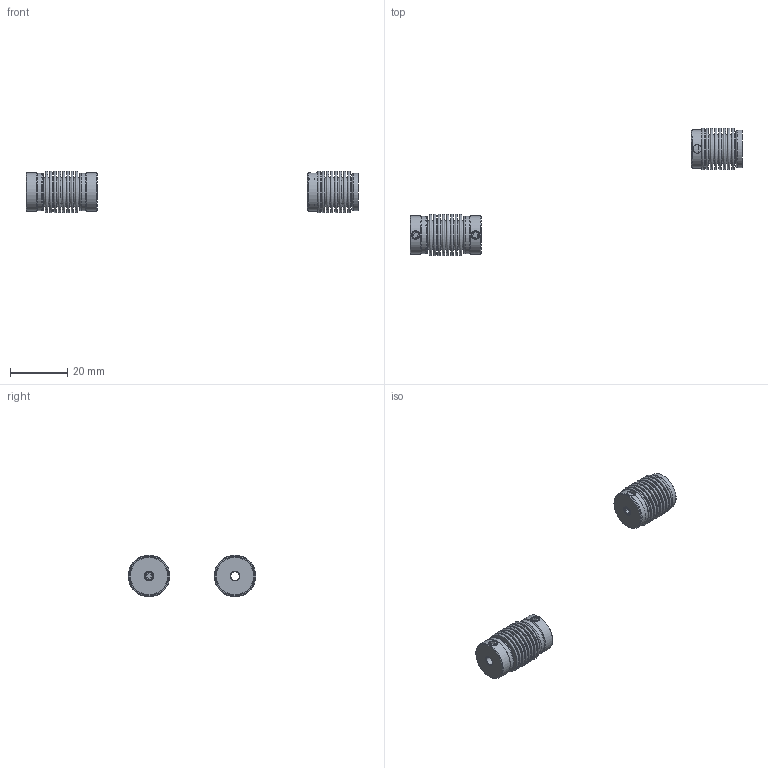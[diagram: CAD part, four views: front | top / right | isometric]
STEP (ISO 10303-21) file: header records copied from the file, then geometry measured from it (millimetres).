
FILE_DESCRIPTION( ( 'Unknown' ), '1' );
FILE_NAME( 'C:/Dokumente und Einstellungen/Sven/Desktop/cad - homepage/KB1/KB1-10-25.stp', 'Unknown', ( 'Unknown' ), ( 'Unknown' ), 'XStep 1.0', 'Unknown', ' ' );
FILE_SCHEMA( ( 'automotive_design' ) );
Length unit declared in the file: millimetre
Products named in the file (4): Assem1; Socket Set Screw Cup Point_DIN_DIN 916 - M3 x 4-N_1; MN10_Standard_0; BM10_Standard
Bounding box: 116.15 x 44.72 x 14.59 mm (x, y, z)
Volume: 2707.2 mm3; surface area: 9922.9 mm2
Topology: 8 solids, 8 shells, 226 faces, 413 edges, 269 vertices
Faces by surface type: plane 106, torus 76, cylinder 23, cone 21
Full cylindrical faces by diameter (mm): 3 x9, 12.9 x7, 13.1 x4, 13.5 x3
Entity records: 2361 total; most frequent: DIRECTION 424, CARTESIAN_POINT 380, ORIENTED_EDGE 228, AXIS2_PLACEMENT_3D 203, EDGE_LOOP 198, FACE_OUTER_BOUND 149, EDGE_CURVE 114, VERTEX_POINT 109
